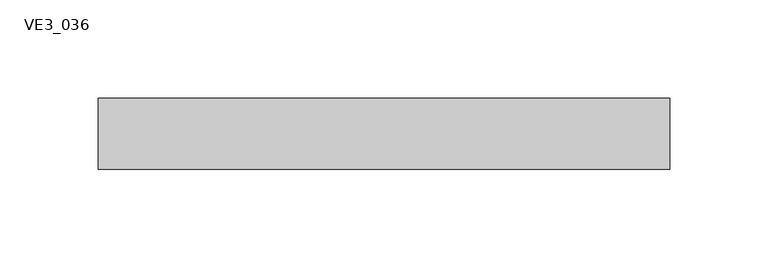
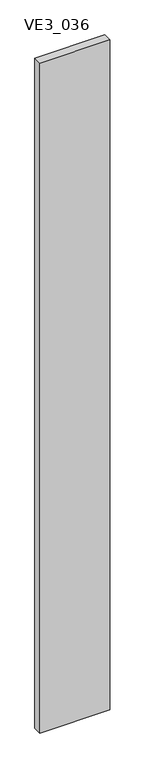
"""IFC4 building model written with IfcOpenShell, lengths in millimetres: plate geometry, TRP_CP_ARC_PF_RE_SE : VE3_036."""

from ifc_helpers import new_model, si_unit, frame, origin, place, context, project, spatial, polyline, outline, extrude, source, transform, mapped, element, save


def ve3_036_8ff04e8b(model_context):
    return source(origin(), model_context, "Body", "SweptSolid", [
        extrude(outline(polyline([(145.0, 18.0), (145.0, -18.0), (-145.0, -18.0), (-145.0, 18.0), (145.0, 18.0)])), frame((0.0, 0.0, -3.1739529), z_axis=(0.0, 0.0, 1.0), x_axis=(1.0, 0.0, 0.0)), (0.0, 0.0, 1.0), 2933.1739529),
    ])


if __name__ == "__main__":
    model = new_model("IFC4")
    model_context = context("Model", 3, world=origin())
    ifc_project = project(units=[si_unit("LENGTHUNIT", "METRE", prefix="MILLI")], contexts=[model_context])
    site = spatial("IfcSite", under=ifc_project)
    building = spatial("IfcBuilding", under=site)
    placement = place(None, origin())
    ve3_036_shape = ve3_036_8ff04e8b(model_context)
    element("IfcPlate", 1, ObjectType="TRP_CP_ARC_PF_RE_SE : VE3_036", at=placement, inside=building, context=model_context, shape_type="MappedRepresentation", body=[
        mapped(ve3_036_shape, transform((0.0, 0.0, 0.0), x_axis=(1.0, 0.0, 0.0), y_axis=(0.0, 1.0, 0.0), z_axis=(0.0, 0.0, 1.0))),
    ])
    save(model, "model.ifc")
